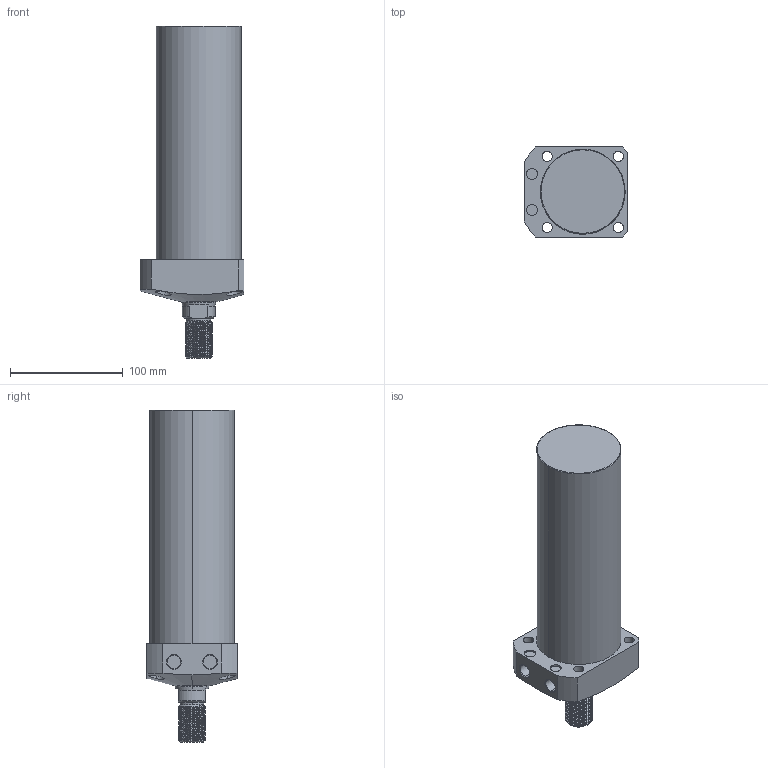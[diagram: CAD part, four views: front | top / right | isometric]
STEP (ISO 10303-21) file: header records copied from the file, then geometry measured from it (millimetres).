
FILE_DESCRIPTION (( 'STEP AP203' ), '1' );
FILE_NAME ('CLL-075CT-170.STEP', '2020-01-08T12:14:54', ( '' ), ( '' ), 'SwSTEP 2.0', 'SolidWorks 2015', '' );
FILE_SCHEMA (( 'CONFIG_CONTROL_DESIGN' ));
Length unit declared in the file: millimetre
Products named in the file (1): CLL-075CT-170
Bounding box: 92 x 80 x 294 mm (x, y, z)
Volume: 1155725.9 mm3; surface area: 83603.2 mm2
Topology: 1 solids, 1 shells, 121 faces, 310 edges, 202 vertices
Faces by surface type: cylinder 77, plane 23, cone 17, torus 2, bspline 2
Entity records: 6535 total; most frequent: CARTESIAN_POINT 3745, ORIENTED_EDGE 620, DIRECTION 517, EDGE_CURVE 310, AXIS2_PLACEMENT_3D 204, VERTEX_POINT 202, EDGE_LOOP 140, FACE_OUTER_BOUND 121
